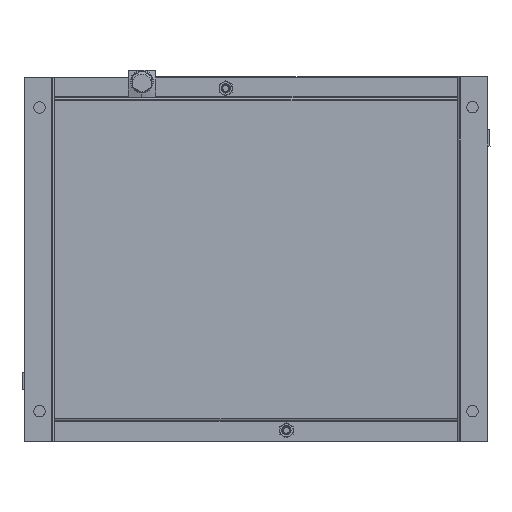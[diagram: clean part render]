
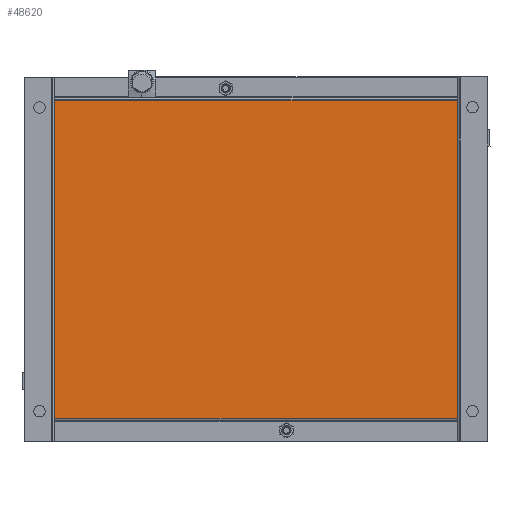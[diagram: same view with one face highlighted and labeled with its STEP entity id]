
A CAD part, front view. The second image highlights one B-rep face of the part: STEP entity #48620.
In plain terms, the highlighted planar face has unit normal (0, -1, 0).
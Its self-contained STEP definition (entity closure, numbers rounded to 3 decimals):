
#48204=DIRECTION('',(0.,0.,-1.));
#48205=VECTOR('',#48204,10.46);
#48206=CARTESIAN_POINT('',(4.87,-12.76,6.36));
#48207=LINE('',#48206,#48205);
#48208=DIRECTION('',(-1.,0.,0.));
#48209=VECTOR('',#48208,13.25);
#48210=CARTESIAN_POINT('',(4.874,-12.76,-4.1));
#48211=LINE('',#48210,#48209);
#48212=DIRECTION('',(0.,0.,1.));
#48213=VECTOR('',#48212,10.46);
#48214=CARTESIAN_POINT('',(-8.376,-12.76,-4.105));
#48215=LINE('',#48214,#48213);
#48221=DIRECTION('',(-1.,0.,0.));
#48222=VECTOR('',#48221,13.25);
#48223=CARTESIAN_POINT('',(4.87,-12.76,6.36));
#48224=LINE('',#48223,#48222);
#48430=CARTESIAN_POINT('',(4.874,-12.76,-4.1));
#48431=VERTEX_POINT('',#48430);
#48432=CARTESIAN_POINT('',(4.87,-12.76,6.36));
#48433=VERTEX_POINT('',#48432);
#48470=CARTESIAN_POINT('',(-8.376,-12.76,-4.105));
#48471=VERTEX_POINT('',#48470);
#48472=CARTESIAN_POINT('',(-8.38,-12.76,6.355));
#48473=VERTEX_POINT('',#48472);
#48606=CARTESIAN_POINT('',(4.874,-12.76,-4.1));
#48607=DIRECTION('',(0.,-1.,0.));
#48608=DIRECTION('',(0.,0.,1.));
#48609=AXIS2_PLACEMENT_3D('',#48606,#48607,#48608);
#48610=PLANE('',#48609);
#48612=ORIENTED_EDGE('',*,*,#48611,.T.);
#48613=ORIENTED_EDGE('',*,*,#48601,.T.);
#48615=ORIENTED_EDGE('',*,*,#48614,.T.);
#48617=ORIENTED_EDGE('',*,*,#48616,.F.);
#48618=EDGE_LOOP('',(#48612,#48613,#48615,#48617));
#48619=FACE_OUTER_BOUND('',#48618,.F.);
#48620=ADVANCED_FACE('',(#48619),#48610,.T.);
#48601=EDGE_CURVE('',#48431,#48471,#48211,.T.);
#48611=EDGE_CURVE('',#48433,#48431,#48207,.T.);
#48614=EDGE_CURVE('',#48471,#48473,#48215,.T.);
#48616=EDGE_CURVE('',#48433,#48473,#48224,.T.);
